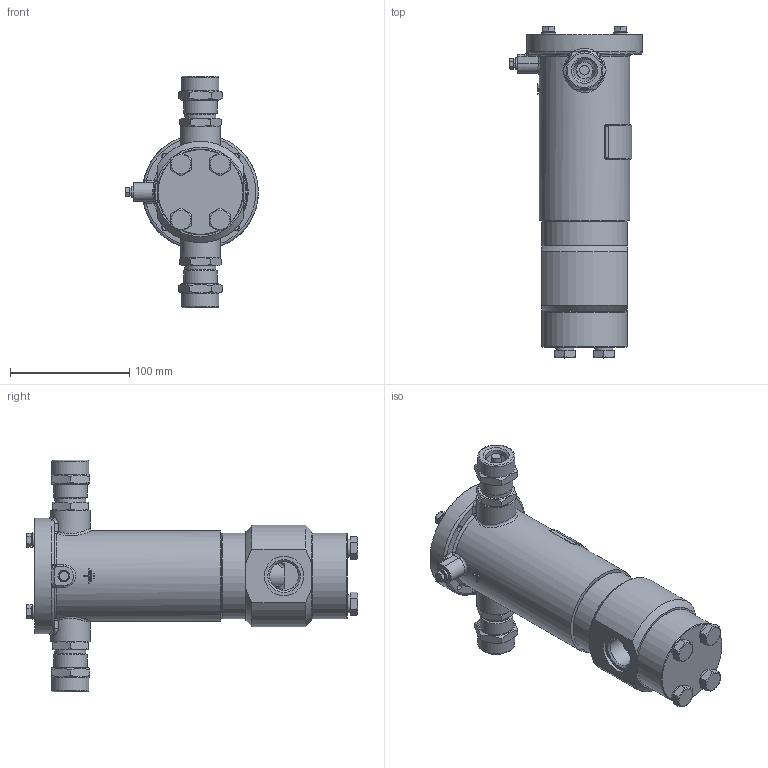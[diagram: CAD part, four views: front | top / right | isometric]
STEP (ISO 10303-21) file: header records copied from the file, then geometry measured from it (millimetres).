
FILE_DESCRIPTION(('STEP AP203'), '1');
FILE_NAME('ÑÅÍÑ-ÏÐ DN15PN250-ÍÎ-G3_4-0.stp', '2018-10-01T10:05:49', ('Îðëîâ Å.Â.'), ('ÎÎÎ ÍÏÏ Ñåíñîð'), 'ASCON STEP Converter 1.3', 'Kompas 3D', '');
FILE_SCHEMA(('CONFIG_CONTROL_DESIGN','SUPPORT_RESOURCE_SCHEMA'));
Length unit declared in the file: millimetre
Products named in the file (1): 10
Bounding box: 111.2 x 278.1 x 194 mm (x, y, z)
Volume: 793129 mm3; surface area: 218514.7 mm2
Topology: 3 solids, 21 shells, 1766 faces, 4722 edges, 3086 vertices
Faces by surface type: cylinder 924, plane 659, cone 118, bspline 27, torus 22, extrusion 16
Full cylindrical faces by diameter (mm): 3.3 x2, 3.5 x2, 4.134 x1, 4.917 x4, 5 x1, 6 x7, 6.1 x1, 6.5 x4, 8 x4, 8.376 x4, 9 x1, 10 x5, 11 x4, 12 x4, 13 x2, 18.632 x2, 20 x4, 22 x2, 22.376 x2, 23.5 x2, 24 x2, 24.117 x2, 24.5 x2, 26 x4, 26.376 x2, 27 x1, 28 x2, 30 x1, 31 x2, 33 x4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
Entity records: 65796 total; most frequent: CARTESIAN_POINT 20472, DIRECTION 9870, ORIENTED_EDGE 9416, EDGE_CURVE 4708, AXIS2_PLACEMENT_3D 3776, VERTEX_POINT 3086, VECTOR 2318, LINE 2302
